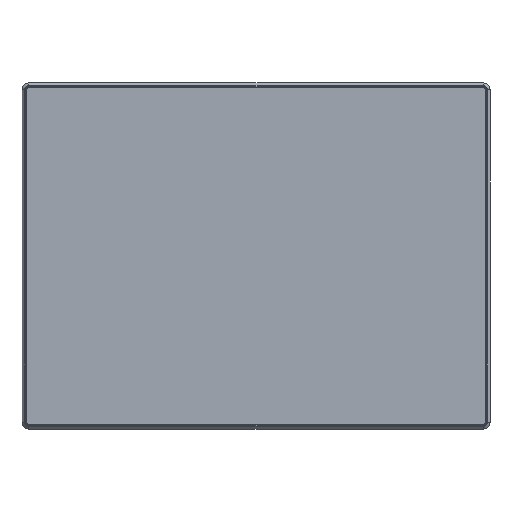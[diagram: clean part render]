
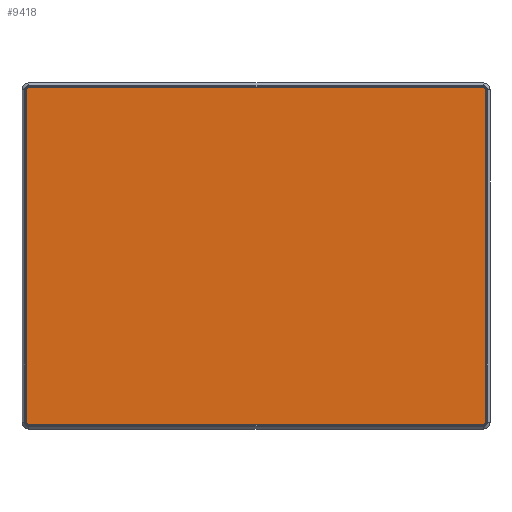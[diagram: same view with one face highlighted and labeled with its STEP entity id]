
A CAD part, top view. The second image highlights one B-rep face of the part: STEP entity #9418.
In plain terms, the highlighted planar face has unit normal (0, 0, 1).
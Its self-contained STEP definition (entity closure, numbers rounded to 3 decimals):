
#3482=DIRECTION('',(0.,1.,0.));
#3483=VECTOR('',#3482,190.5);
#3484=CARTESIAN_POINT('',(-131.7,-95.25,
7.65));
#3485=LINE('',#3484,#3483);
#3486=CARTESIAN_POINT('',(-130.25,95.25,7.65));
#3487=DIRECTION('',(0.,0.,-1.));
#3488=DIRECTION('',(-1.,0.,0.));
#3489=AXIS2_PLACEMENT_3D('',#3486,#3487,#3488);
#3491=DIRECTION('',(1.,0.,0.));
#3492=VECTOR('',#3491,260.5);
#3493=CARTESIAN_POINT('',(-130.25,96.7,7.65));
#3494=LINE('',#3493,#3492);
#3495=CARTESIAN_POINT('',(130.25,95.25,7.65));
#3496=DIRECTION('',(0.,0.,-1.));
#3497=DIRECTION('',(0.,1.,0.));
#3498=AXIS2_PLACEMENT_3D('',#3495,#3496,#3497);
#3500=DIRECTION('',(0.,-1.,0.));
#3501=VECTOR('',#3500,190.5);
#3502=CARTESIAN_POINT('',(131.7,95.25,7.65));
#3503=LINE('',#3502,#3501);
#3504=CARTESIAN_POINT('',(130.25,-95.25,7.65));
#3505=DIRECTION('',(0.,0.,-1.));
#3506=DIRECTION('',(1.,0.,0.));
#3507=AXIS2_PLACEMENT_3D('',#3504,#3505,#3506);
#3509=DIRECTION('',(-1.,0.,0.));
#3510=VECTOR('',#3509,260.5);
#3511=CARTESIAN_POINT('',(130.25,-96.7,7.65));
#3512=LINE('',#3511,#3510);
#3513=CARTESIAN_POINT('',(-130.25,-95.25,7.65));
#3514=DIRECTION('',(0.,0.,-1.));
#3515=DIRECTION('',(0.,-1.,0.));
#3516=AXIS2_PLACEMENT_3D('',#3513,#3514,#3515);
#4610=CARTESIAN_POINT('',(-131.7,95.25,7.65));
#4611=CARTESIAN_POINT('',(-130.25,96.7,7.65));
#4612=VERTEX_POINT('',#4610);
#4613=VERTEX_POINT('',#4611);
#4614=CARTESIAN_POINT('',(-131.7,-95.25,
7.65));
#4615=VERTEX_POINT('',#4614);
#4616=CARTESIAN_POINT('',(130.25,96.7,7.65));
#4617=VERTEX_POINT('',#4616);
#4618=CARTESIAN_POINT('',(131.7,95.25,7.65));
#4619=VERTEX_POINT('',#4618);
#4620=CARTESIAN_POINT('',(131.7,-95.25,7.65));
#4621=VERTEX_POINT('',#4620);
#4622=CARTESIAN_POINT('',(130.25,-96.7,7.65));
#4623=VERTEX_POINT('',#4622);
#4624=CARTESIAN_POINT('',(-130.25,-96.7,
7.65));
#4625=VERTEX_POINT('',#4624);
#9396=CARTESIAN_POINT('',(0.,0.,7.65));
#9397=DIRECTION('',(0.,0.,1.));
#9398=DIRECTION('',(1.,0.,0.));
#9399=AXIS2_PLACEMENT_3D('',#9396,#9397,#9398);
#9400=PLANE('',#9399);
#9402=ORIENTED_EDGE('',*,*,#9401,.T.);
#9403=ORIENTED_EDGE('',*,*,#9386,.T.);
#9405=ORIENTED_EDGE('',*,*,#9404,.T.);
#9407=ORIENTED_EDGE('',*,*,#9406,.T.);
#9409=ORIENTED_EDGE('',*,*,#9408,.T.);
#9411=ORIENTED_EDGE('',*,*,#9410,.T.);
#9413=ORIENTED_EDGE('',*,*,#9412,.T.);
#9415=ORIENTED_EDGE('',*,*,#9414,.T.);
#9416=EDGE_LOOP('',(#9402,#9403,#9405,#9407,#9409,#9411,#9413,#9415));
#9417=FACE_OUTER_BOUND('',#9416,.F.);
#9418=ADVANCED_FACE('',(#9417),#9400,.T.);
#3490=CIRCLE('',#3489,1.45);
#3499=CIRCLE('',#3498,1.45);
#3508=CIRCLE('',#3507,1.45);
#3517=CIRCLE('',#3516,1.45);
#9386=EDGE_CURVE('',#4612,#4613,#3490,.T.);
#9401=EDGE_CURVE('',#4615,#4612,#3485,.T.);
#9404=EDGE_CURVE('',#4613,#4617,#3494,.T.);
#9406=EDGE_CURVE('',#4617,#4619,#3499,.T.);
#9408=EDGE_CURVE('',#4619,#4621,#3503,.T.);
#9410=EDGE_CURVE('',#4621,#4623,#3508,.T.);
#9412=EDGE_CURVE('',#4623,#4625,#3512,.T.);
#9414=EDGE_CURVE('',#4625,#4615,#3517,.T.);
